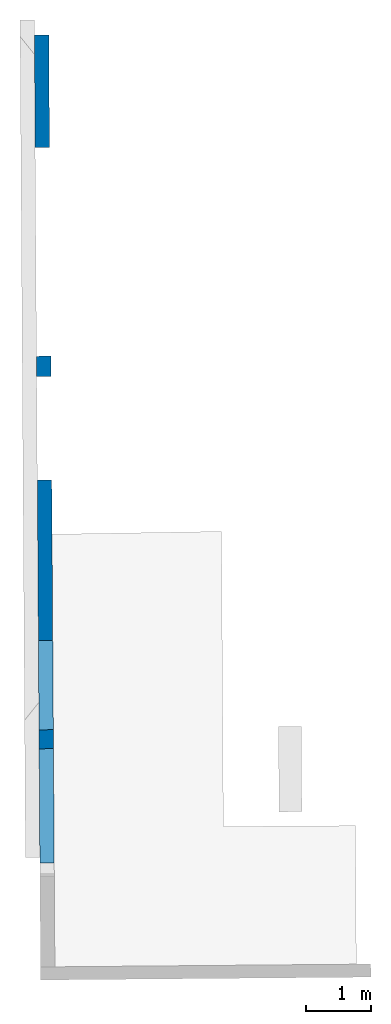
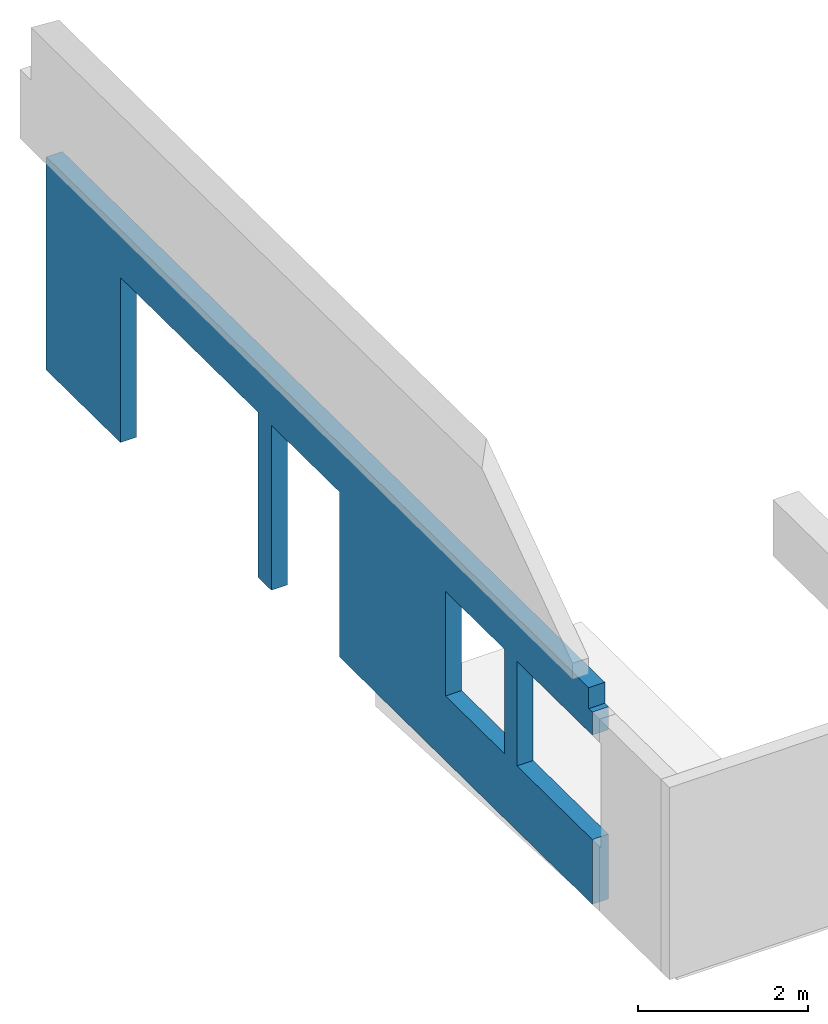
# One storey, part 2 of 2: 1 wall.
"""IFC2X3 building model written with IfcOpenShell, lengths in centimetres."""

from ifc_helpers import new_model, entity, si_unit, converted_unit, direction, frame, origin, place, context, subcontext, project, spatial, faceted_brep, material, layer, layer_set, type_object, element, save


model = new_model("IFC2X3")

# Units and contexts
model_context = context("Model", 3, precision=0.001, world=frame((0.0, 0.0, 13090.0)), true_north=direction((6.123233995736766e-17, 1.0)))
body_context = subcontext(model_context, "Body", "Model", "MODEL_VIEW")
ifc_project = project(units=[si_unit("LENGTHUNIT", "METRE", prefix="CENTI"), si_unit("AREAUNIT", "SQUARE_METRE"), si_unit("VOLUMEUNIT", "CUBIC_METRE"), converted_unit("PLANEANGLEUNIT", "DEGREE", entity("IfcPlaneAngleMeasure", 0.017453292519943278), si_unit("PLANEANGLEUNIT", "RADIAN"), dimensions=[0, 0, 0, 0, 0, 0, 0])], contexts=[model_context])

# Site, building, storey
site_placement = place(None, origin())
site = spatial("IfcSite", under=ifc_project, at=site_placement, Name="Default", CompositionType="ELEMENT")
building_placement = place(site_placement, origin())
building = spatial("IfcBuilding", under=site, at=building_placement, Name="e 39 logements et 22 maisons relais", CompositionType="ELEMENT")
storey_placement = place(building_placement, frame((0.0, 0.0, 14.0)))
storey = spatial("IfcBuildingStorey", under=building, at=storey_placement, Name="131.04", CompositionType="ELEMENT", Elevation=14.000000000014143)

# Wall
ifc_material = material(Name="Béton - Béton coulé sur place")
ifc_layer = layer(ifc_material, 22.0)
ifc_layer_set = layer_set([ifc_layer], Name="Mur de base:BA - 22cm")
wall_type = type_object("IfcWallType", Name="Mur de base:BA - 22cm", PredefinedType="STANDARD", material=ifc_layer_set)
wall_placement = place(storey_placement, frame((-1285.0273717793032, -762.4234919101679, 0.0), z_axis=(0.0, 0.0, 1.0), x_axis=(-0.00655754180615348, 0.9999784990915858, 0.0)))
element("IfcWall", 1, at=wall_placement, inside=storey, type_object=wall_type, Name="Mur de base:BA - 22cm", ObjectType="Mur de base:BA - 22cm", context=body_context, shape_type="Brep", body=[
    faceted_brep([(1270.1987685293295, -11.0, 306.0), (526.2377536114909, -11.0, 306.0), (504.23659510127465, -11.0, 306.0), (195.96685880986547, -11.0, 306.0), (184.9668588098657, -11.0, 306.0), (8.31771024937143, -11.0, 306.0), (8.317710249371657, -11.0, 276.0), (0.0, -11.0, 276.0), (0.0, -11.0, 243.0), (175.16685880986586, -11.0, 243.0), (175.16685880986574, -11.0, 93.0), (0.0, -11.0, 93.0), (0.0, -11.0, 0.0), (587.3948329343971, -11.0, 0.0), (587.3948329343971, -11.0, 237.0), (746.3948329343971, -11.0, 237.0), (746.3948329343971, -11.0, 0.0), (777.4948329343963, -11.0, 0.0), (777.4948329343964, -11.0, 237.0), (1097.494832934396, -11.0, 237.0), (1097.4948329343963, -11.0, 0.0), (1270.1987685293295, -11.0, 0.0), (204.29483293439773, -11.0, 243.0), (341.29483293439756, -11.0, 243.0), (341.2948329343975, -11.0, 93.0), (204.29483293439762, -11.0, 93.0), (8.317710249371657, 11.0, 306.0), (1270.2593278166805, 11.0, 306.0), (1270.2593278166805, 11.0, 0.0), (1097.494832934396, 11.0, 0.0), (1097.494832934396, 11.0, 237.0), (777.4948329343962, 11.0, 237.0), (777.4948329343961, 11.0, 0.0), (746.3948329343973, 11.0, 0.0), (746.3948329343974, 11.0, 237.0), (587.3948329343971, 11.0, 237.0), (587.3948329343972, 11.0, 0.0), (0.0, 11.0, 0.0), (0.0, 11.0, 93.0), (175.16685880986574, 11.0, 93.0), (175.16685880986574, 11.0, 243.0), (0.0, 11.0, 243.0), (0.0, 11.0, 276.0), (8.317710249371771, 11.0, 276.0), (204.2948329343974, 11.0, 243.0), (204.2948329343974, 11.0, 93.0), (341.29483293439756, 11.0, 93.0), (341.29483293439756, 11.0, 243.0)], [[[0, 1, 2, 3, 4, 5, 6, 7, 8, 9, 10, 11, 12, 13, 14, 15, 16, 17, 18, 19, 20, 21], [22, 23, 24, 25]], [[26, 27, 28, 29, 30, 31, 32, 33, 34, 35, 36, 37, 38, 39, 40, 41, 42, 43], [44, 45, 46, 47]], [[12, 37, 36, 13]], [[5, 4, 3, 2, 1, 0, 27, 26]], [[0, 21, 28, 27]], [[44, 47, 23, 22]], [[47, 46, 24, 23]], [[46, 45, 25, 24]], [[45, 44, 22, 25]], [[10, 39, 38, 11]], [[8, 41, 40, 9]], [[31, 18, 17, 32]], [[19, 30, 29, 20]], [[18, 31, 30, 19]], [[15, 34, 33, 16]], [[35, 14, 13, 36]], [[34, 15, 14, 35]], [[39, 10, 9, 40]], [[7, 42, 41, 8]], [[43, 42, 7, 6]], [[43, 6, 5, 26]], [[37, 12, 11, 38]], [[32, 17, 16, 33]], [[28, 21, 20, 29]]]),
])

save(model, "model.ifc")
